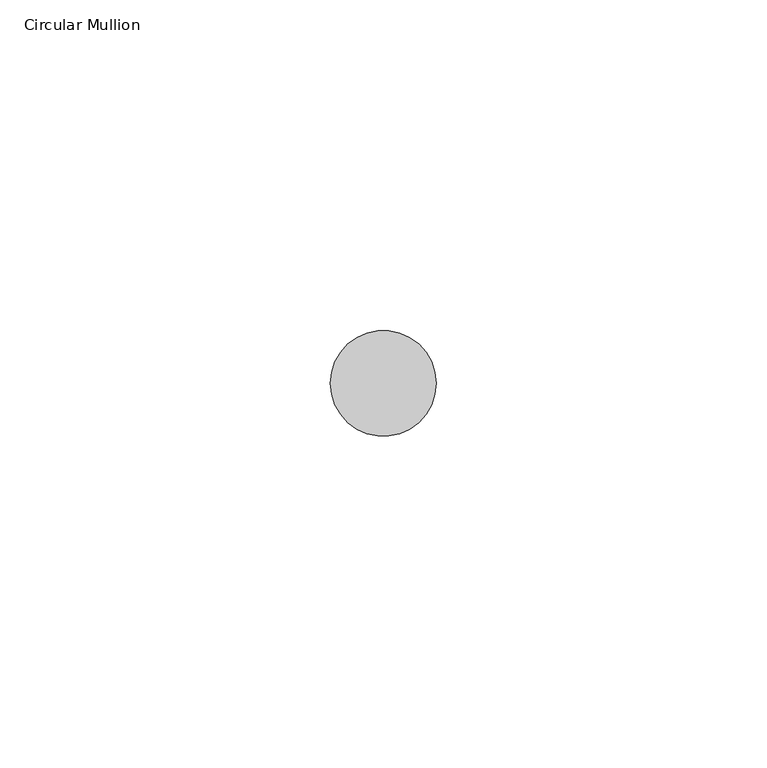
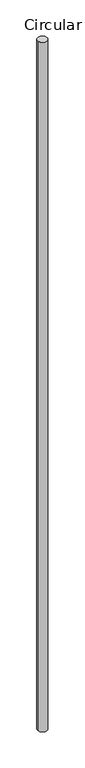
"""IFC4 building model written with IfcOpenShell, lengths in millimetres: member geometry, Circular Mullion : ARQ_HERR_16mm."""

from ifc_helpers import new_model, si_unit, point, frame, origin, origin_2d, place, context, project, spatial, circle_curve, trimmed, segment, composite_curve, outline, extrude, source, transform, mapped, element, save


def circular_mullion_5fc61161(model_context):
    return source(origin(), model_context, "Body", "SweptSolid", [
        extrude(outline(composite_curve([segment(trimmed(circle_curve(origin_2d(), 8.0), [point((8.0, 0.0))], [point((-8.0, 0.0))], False, "CARTESIAN"), True, "CONTINUOUS"), segment(trimmed(circle_curve(origin_2d(), 8.0), [point((-8.0, 0.0))], [point((8.0, 0.0))], False, "CARTESIAN"), True, "CONTINUOUS")], self_intersect=False)), frame((0.0, 0.0, -1238.0), z_axis=(0.0, 0.0, 1.0), x_axis=(1.0, 0.0, 0.0)), (0.0, 0.0, 1.0), 1238.0),
    ])


if __name__ == "__main__":
    model = new_model("IFC4")
    model_context = context("Model", 3, world=origin())
    ifc_project = project(units=[si_unit("LENGTHUNIT", "METRE", prefix="MILLI")], contexts=[model_context])
    site = spatial("IfcSite", under=ifc_project)
    building = spatial("IfcBuilding", under=site)
    placement = place(None, origin())
    circular_mullion_shape = circular_mullion_5fc61161(model_context)
    element("IfcMember", 1, ObjectType="Circular Mullion : ARQ_HERR_16mm", at=placement, inside=building, context=model_context, shape_type="MappedRepresentation", body=[
        mapped(circular_mullion_shape, transform((0.0, 0.0, 0.0), x_axis=(1.0, 0.0, 0.0), y_axis=(0.0, 1.0, 0.0), z_axis=(0.0, 0.0, 1.0))),
    ])
    save(model, "model.ifc")
